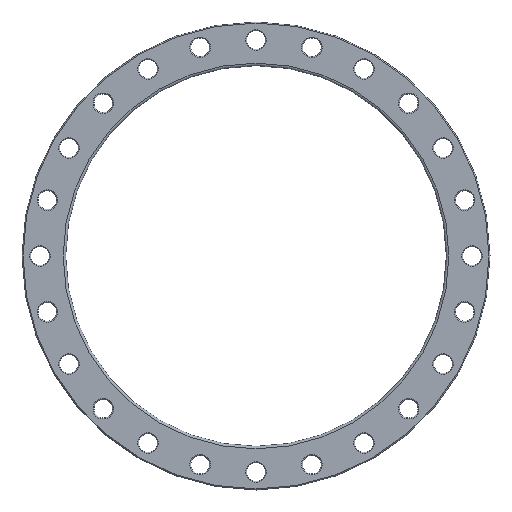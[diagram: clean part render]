
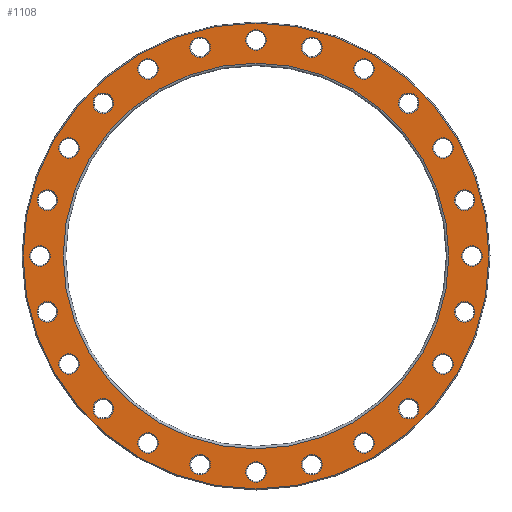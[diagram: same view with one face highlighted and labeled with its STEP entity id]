
A CAD part, front view. The second image highlights one B-rep face of the part: STEP entity #1108.
In plain terms, the highlighted planar face has unit normal (0, -1, 0).
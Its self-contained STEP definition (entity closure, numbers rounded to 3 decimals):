
#23=PLANE('',#1300);
#242=ORIENTED_EDGE('',*,*,#381,.T.);
#243=ORIENTED_EDGE('',*,*,#382,.T.);
#244=ORIENTED_EDGE('',*,*,#284,.T.);
#245=ORIENTED_EDGE('',*,*,#288,.T.);
#246=ORIENTED_EDGE('',*,*,#292,.T.);
#247=ORIENTED_EDGE('',*,*,#296,.T.);
#248=ORIENTED_EDGE('',*,*,#300,.T.);
#249=ORIENTED_EDGE('',*,*,#304,.T.);
#250=ORIENTED_EDGE('',*,*,#308,.T.);
#251=ORIENTED_EDGE('',*,*,#312,.T.);
#252=ORIENTED_EDGE('',*,*,#316,.T.);
#253=ORIENTED_EDGE('',*,*,#320,.T.);
#254=ORIENTED_EDGE('',*,*,#324,.T.);
#255=ORIENTED_EDGE('',*,*,#328,.T.);
#256=ORIENTED_EDGE('',*,*,#332,.T.);
#257=ORIENTED_EDGE('',*,*,#336,.T.);
#258=ORIENTED_EDGE('',*,*,#340,.T.);
#259=ORIENTED_EDGE('',*,*,#344,.T.);
#260=ORIENTED_EDGE('',*,*,#348,.T.);
#261=ORIENTED_EDGE('',*,*,#352,.T.);
#262=ORIENTED_EDGE('',*,*,#356,.T.);
#263=ORIENTED_EDGE('',*,*,#360,.T.);
#264=ORIENTED_EDGE('',*,*,#364,.T.);
#265=ORIENTED_EDGE('',*,*,#368,.T.);
#266=ORIENTED_EDGE('',*,*,#372,.T.);
#267=ORIENTED_EDGE('',*,*,#383,.T.);
#284=EDGE_CURVE('',#388,#388,#492,.T.);
#288=EDGE_CURVE('',#392,#392,#496,.T.);
#292=EDGE_CURVE('',#396,#396,#500,.T.);
#296=EDGE_CURVE('',#400,#400,#504,.T.);
#300=EDGE_CURVE('',#404,#404,#508,.T.);
#304=EDGE_CURVE('',#408,#408,#512,.T.);
#308=EDGE_CURVE('',#412,#412,#516,.T.);
#312=EDGE_CURVE('',#416,#416,#520,.T.);
#316=EDGE_CURVE('',#420,#420,#524,.T.);
#320=EDGE_CURVE('',#424,#424,#528,.T.);
#324=EDGE_CURVE('',#428,#428,#532,.T.);
#328=EDGE_CURVE('',#432,#432,#536,.T.);
#332=EDGE_CURVE('',#436,#436,#540,.T.);
#336=EDGE_CURVE('',#440,#440,#544,.T.);
#340=EDGE_CURVE('',#444,#444,#548,.T.);
#344=EDGE_CURVE('',#448,#448,#552,.T.);
#348=EDGE_CURVE('',#452,#452,#556,.T.);
#352=EDGE_CURVE('',#456,#456,#560,.T.);
#356=EDGE_CURVE('',#460,#460,#564,.T.);
#360=EDGE_CURVE('',#464,#464,#568,.T.);
#364=EDGE_CURVE('',#468,#468,#572,.T.);
#368=EDGE_CURVE('',#472,#472,#576,.T.);
#372=EDGE_CURVE('',#476,#476,#580,.T.);
#381=EDGE_CURVE('',#485,#485,#589,.F.);
#382=EDGE_CURVE('',#486,#486,#590,.T.);
#383=EDGE_CURVE('',#487,#487,#591,.T.);
#388=VERTEX_POINT('',#1691);
#392=VERTEX_POINT('',#1702);
#396=VERTEX_POINT('',#1713);
#400=VERTEX_POINT('',#1724);
#404=VERTEX_POINT('',#1735);
#408=VERTEX_POINT('',#1746);
#412=VERTEX_POINT('',#1757);
#416=VERTEX_POINT('',#1768);
#420=VERTEX_POINT('',#1779);
#424=VERTEX_POINT('',#1790);
#428=VERTEX_POINT('',#1801);
#432=VERTEX_POINT('',#1812);
#436=VERTEX_POINT('',#1823);
#440=VERTEX_POINT('',#1834);
#444=VERTEX_POINT('',#1845);
#448=VERTEX_POINT('',#1856);
#452=VERTEX_POINT('',#1867);
#456=VERTEX_POINT('',#1878);
#460=VERTEX_POINT('',#1889);
#464=VERTEX_POINT('',#1900);
#468=VERTEX_POINT('',#1911);
#472=VERTEX_POINT('',#1922);
#476=VERTEX_POINT('',#1933);
#485=VERTEX_POINT('',#1956);
#486=VERTEX_POINT('',#1958);
#487=VERTEX_POINT('',#1960);
#492=CIRCLE('',#1133,20.);
#496=CIRCLE('',#1140,20.);
#500=CIRCLE('',#1147,20.);
#504=CIRCLE('',#1154,20.);
#508=CIRCLE('',#1161,20.);
#512=CIRCLE('',#1168,20.);
#516=CIRCLE('',#1175,20.);
#520=CIRCLE('',#1182,20.);
#524=CIRCLE('',#1189,20.);
#528=CIRCLE('',#1196,20.);
#532=CIRCLE('',#1203,20.);
#536=CIRCLE('',#1210,20.);
#540=CIRCLE('',#1217,20.);
#544=CIRCLE('',#1224,20.);
#548=CIRCLE('',#1231,20.);
#552=CIRCLE('',#1238,20.);
#556=CIRCLE('',#1245,20.);
#560=CIRCLE('',#1252,20.);
#564=CIRCLE('',#1259,20.);
#568=CIRCLE('',#1266,20.);
#572=CIRCLE('',#1273,20.);
#576=CIRCLE('',#1280,20.);
#580=CIRCLE('',#1287,20.);
#589=CIRCLE('',#1301,453.);
#590=CIRCLE('',#1302,375.);
#591=CIRCLE('',#1303,20.);
#762=EDGE_LOOP('',(#242));
#763=EDGE_LOOP('',(#243));
#764=EDGE_LOOP('',(#244));
#765=EDGE_LOOP('',(#245));
#766=EDGE_LOOP('',(#246));
#767=EDGE_LOOP('',(#247));
#768=EDGE_LOOP('',(#248));
#769=EDGE_LOOP('',(#249));
#770=EDGE_LOOP('',(#250));
#771=EDGE_LOOP('',(#251));
#772=EDGE_LOOP('',(#252));
#773=EDGE_LOOP('',(#253));
#774=EDGE_LOOP('',(#254));
#775=EDGE_LOOP('',(#255));
#776=EDGE_LOOP('',(#256));
#777=EDGE_LOOP('',(#257));
#778=EDGE_LOOP('',(#258));
#779=EDGE_LOOP('',(#259));
#780=EDGE_LOOP('',(#260));
#781=EDGE_LOOP('',(#261));
#782=EDGE_LOOP('',(#262));
#783=EDGE_LOOP('',(#263));
#784=EDGE_LOOP('',(#264));
#785=EDGE_LOOP('',(#265));
#786=EDGE_LOOP('',(#266));
#787=EDGE_LOOP('',(#267));
#970=FACE_BOUND('',#762,.T.);
#971=FACE_BOUND('',#763,.T.);
#972=FACE_BOUND('',#764,.T.);
#973=FACE_BOUND('',#765,.T.);
#974=FACE_BOUND('',#766,.T.);
#975=FACE_BOUND('',#767,.T.);
#976=FACE_BOUND('',#768,.T.);
#977=FACE_BOUND('',#769,.T.);
#978=FACE_BOUND('',#770,.T.);
#979=FACE_BOUND('',#771,.T.);
#980=FACE_BOUND('',#772,.T.);
#981=FACE_BOUND('',#773,.T.);
#982=FACE_BOUND('',#774,.T.);
#983=FACE_BOUND('',#775,.T.);
#984=FACE_BOUND('',#776,.T.);
#985=FACE_BOUND('',#777,.T.);
#986=FACE_BOUND('',#778,.T.);
#987=FACE_BOUND('',#779,.T.);
#988=FACE_BOUND('',#780,.T.);
#989=FACE_BOUND('',#781,.T.);
#990=FACE_BOUND('',#782,.T.);
#991=FACE_BOUND('',#783,.T.);
#992=FACE_BOUND('',#784,.T.);
#993=FACE_BOUND('',#785,.T.);
#994=FACE_BOUND('',#786,.T.);
#995=FACE_BOUND('',#787,.T.);
#1108=ADVANCED_FACE('',(#970,#971,#972,#973,#974,#975,#976,#977,#978,#979,
#980,#981,#982,#983,#984,#985,#986,#987,#988,#989,#990,#991,#992,#993,#994,
#995),#23,.F.);
#1133=AXIS2_PLACEMENT_3D('',#1690,#1323,#1324);
#1140=AXIS2_PLACEMENT_3D('',#1701,#1337,#1338);
#1147=AXIS2_PLACEMENT_3D('',#1712,#1351,#1352);
#1154=AXIS2_PLACEMENT_3D('',#1723,#1365,#1366);
#1161=AXIS2_PLACEMENT_3D('',#1734,#1379,#1380);
#1168=AXIS2_PLACEMENT_3D('',#1745,#1393,#1394);
#1175=AXIS2_PLACEMENT_3D('',#1756,#1407,#1408);
#1182=AXIS2_PLACEMENT_3D('',#1767,#1421,#1422);
#1189=AXIS2_PLACEMENT_3D('',#1778,#1435,#1436);
#1196=AXIS2_PLACEMENT_3D('',#1789,#1449,#1450);
#1203=AXIS2_PLACEMENT_3D('',#1800,#1463,#1464);
#1210=AXIS2_PLACEMENT_3D('',#1811,#1477,#1478);
#1217=AXIS2_PLACEMENT_3D('',#1822,#1491,#1492);
#1224=AXIS2_PLACEMENT_3D('',#1833,#1505,#1506);
#1231=AXIS2_PLACEMENT_3D('',#1844,#1519,#1520);
#1238=AXIS2_PLACEMENT_3D('',#1855,#1533,#1534);
#1245=AXIS2_PLACEMENT_3D('',#1866,#1547,#1548);
#1252=AXIS2_PLACEMENT_3D('',#1877,#1561,#1562);
#1259=AXIS2_PLACEMENT_3D('',#1888,#1575,#1576);
#1266=AXIS2_PLACEMENT_3D('',#1899,#1589,#1590);
#1273=AXIS2_PLACEMENT_3D('',#1910,#1603,#1604);
#1280=AXIS2_PLACEMENT_3D('',#1921,#1617,#1618);
#1287=AXIS2_PLACEMENT_3D('',#1932,#1631,#1632);
#1300=AXIS2_PLACEMENT_3D('',#1954,#1657,#1658);
#1301=AXIS2_PLACEMENT_3D('',#1955,#1659,#1660);
#1302=AXIS2_PLACEMENT_3D('',#1957,#1661,#1662);
#1303=AXIS2_PLACEMENT_3D('',#1959,#1663,#1664);
#1323=DIRECTION('',(0.,1.,0.));
#1324=DIRECTION('',(0.966,0.,0.259));
#1337=DIRECTION('',(0.,1.,0.));
#1338=DIRECTION('',(0.866,0.,0.5));
#1351=DIRECTION('',(0.,1.,0.));
#1352=DIRECTION('',(0.707,0.,0.707));
#1365=DIRECTION('',(0.,1.,0.));
#1366=DIRECTION('',(0.5,0.,0.866));
#1379=DIRECTION('',(0.,1.,0.));
#1380=DIRECTION('',(0.259,0.,0.966));
#1393=DIRECTION('',(0.,1.,0.));
#1394=DIRECTION('',(0.,0.,1.));
#1407=DIRECTION('',(0.,1.,0.));
#1408=DIRECTION('',(-0.259,0.,0.966));
#1421=DIRECTION('',(0.,1.,0.));
#1422=DIRECTION('',(-0.5,0.,0.866));
#1435=DIRECTION('',(0.,1.,0.));
#1436=DIRECTION('',(-0.707,0.,0.707));
#1449=DIRECTION('',(0.,1.,0.));
#1450=DIRECTION('',(-0.866,0.,0.5));
#1463=DIRECTION('',(0.,1.,0.));
#1464=DIRECTION('',(-0.966,0.,0.259));
#1477=DIRECTION('',(0.,1.,0.));
#1478=DIRECTION('',(-1.,0.,0.));
#1491=DIRECTION('',(0.,1.,0.));
#1492=DIRECTION('',(-0.966,0.,-0.259));
#1505=DIRECTION('',(0.,1.,0.));
#1506=DIRECTION('',(-0.866,0.,-0.5));
#1519=DIRECTION('',(0.,1.,0.));
#1520=DIRECTION('',(-0.707,0.,-0.707));
#1533=DIRECTION('',(0.,1.,0.));
#1534=DIRECTION('',(-0.5,0.,-0.866));
#1547=DIRECTION('',(0.,1.,0.));
#1548=DIRECTION('',(-0.259,0.,-0.966));
#1561=DIRECTION('',(0.,1.,0.));
#1562=DIRECTION('',(0.,0.,-1.));
#1575=DIRECTION('',(0.,1.,0.));
#1576=DIRECTION('',(0.259,0.,-0.966));
#1589=DIRECTION('',(0.,1.,0.));
#1590=DIRECTION('',(0.5,0.,-0.866));
#1603=DIRECTION('',(0.,1.,0.));
#1604=DIRECTION('',(0.707,0.,-0.707));
#1617=DIRECTION('',(0.,1.,0.));
#1618=DIRECTION('',(0.866,0.,-0.5));
#1631=DIRECTION('',(0.,1.,0.));
#1632=DIRECTION('',(0.966,0.,-0.259));
#1657=DIRECTION('',(0.,1.,0.));
#1658=DIRECTION('',(0.,0.,1.));
#1659=DIRECTION('',(0.,1.,0.));
#1660=DIRECTION('',(0.,0.,1.));
#1661=DIRECTION('',(0.,1.,0.));
#1662=DIRECTION('',(0.,0.,1.));
#1663=DIRECTION('',(0.,1.,0.));
#1664=DIRECTION('',(1.,0.,0.));
#1690=CARTESIAN_POINT('',(-108.704,0.,405.689));
#1691=CARTESIAN_POINT('',(-89.385,0.,410.865));
#1701=CARTESIAN_POINT('',(-210.,0.,363.731));
#1702=CARTESIAN_POINT('',(-192.679,0.,373.731));
#1712=CARTESIAN_POINT('',(-296.985,0.,296.985));
#1713=CARTESIAN_POINT('',(-282.843,0.,311.127));
#1723=CARTESIAN_POINT('',(-363.731,0.,210.));
#1724=CARTESIAN_POINT('',(-353.731,0.,227.321));
#1734=CARTESIAN_POINT('',(-405.689,0.,108.704));
#1735=CARTESIAN_POINT('',(-400.512,0.,128.023));
#1745=CARTESIAN_POINT('',(-420.,0.,0.));
#1746=CARTESIAN_POINT('',(-420.,0.,20.));
#1756=CARTESIAN_POINT('',(-405.689,0.,-108.704));
#1757=CARTESIAN_POINT('',(-410.865,0.,-89.385));
#1767=CARTESIAN_POINT('',(-363.731,0.,-210.));
#1768=CARTESIAN_POINT('',(-373.731,0.,-192.679));
#1778=CARTESIAN_POINT('',(-296.985,0.,-296.985));
#1779=CARTESIAN_POINT('',(-311.127,0.,-282.843));
#1789=CARTESIAN_POINT('',(-210.,0.,-363.731));
#1790=CARTESIAN_POINT('',(-227.321,0.,-353.731));
#1800=CARTESIAN_POINT('',(-108.704,0.,-405.689));
#1801=CARTESIAN_POINT('',(-128.023,0.,-400.512));
#1811=CARTESIAN_POINT('',(0.,0.,-420.));
#1812=CARTESIAN_POINT('',(-20.,0.,-420.));
#1822=CARTESIAN_POINT('',(108.704,0.,-405.689));
#1823=CARTESIAN_POINT('',(89.385,0.,-410.865));
#1833=CARTESIAN_POINT('',(210.,0.,-363.731));
#1834=CARTESIAN_POINT('',(192.679,0.,-373.731));
#1844=CARTESIAN_POINT('',(296.985,0.,-296.985));
#1845=CARTESIAN_POINT('',(282.843,0.,-311.127));
#1855=CARTESIAN_POINT('',(363.731,0.,-210.));
#1856=CARTESIAN_POINT('',(353.731,0.,-227.321));
#1866=CARTESIAN_POINT('',(405.689,0.,-108.704));
#1867=CARTESIAN_POINT('',(400.512,0.,-128.023));
#1877=CARTESIAN_POINT('',(420.,0.,0.));
#1878=CARTESIAN_POINT('',(420.,0.,-20.));
#1888=CARTESIAN_POINT('',(405.689,0.,108.704));
#1889=CARTESIAN_POINT('',(410.865,0.,89.385));
#1899=CARTESIAN_POINT('',(363.731,0.,210.));
#1900=CARTESIAN_POINT('',(373.731,0.,192.679));
#1910=CARTESIAN_POINT('',(296.985,0.,296.985));
#1911=CARTESIAN_POINT('',(311.127,0.,282.843));
#1921=CARTESIAN_POINT('',(210.,0.,363.731));
#1922=CARTESIAN_POINT('',(227.321,0.,353.731));
#1932=CARTESIAN_POINT('',(108.704,0.,405.689));
#1933=CARTESIAN_POINT('',(128.023,0.,400.512));
#1954=CARTESIAN_POINT('',(0.,0.,0.));
#1955=CARTESIAN_POINT('',(0.,0.,0.));
#1956=CARTESIAN_POINT('',(0.,0.,453.));
#1957=CARTESIAN_POINT('',(0.,0.,0.));
#1958=CARTESIAN_POINT('',(0.,0.,375.));
#1959=CARTESIAN_POINT('',(0.,0.,420.));
#1960=CARTESIAN_POINT('',(20.,0.,420.));
